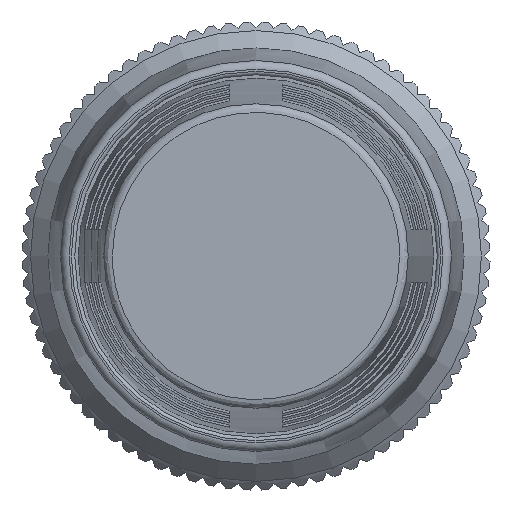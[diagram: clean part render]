
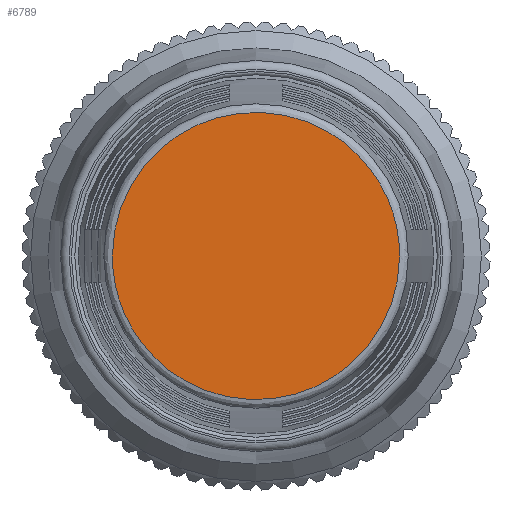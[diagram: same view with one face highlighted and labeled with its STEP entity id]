
A CAD part, front view. The second image highlights one B-rep face of the part: STEP entity #6789.
In plain terms, the highlighted planar face has unit normal (0, -1, 0).
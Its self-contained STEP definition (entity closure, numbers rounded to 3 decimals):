
#728 = CARTESIAN_POINT ( 'NONE',  ( -8.282, -27.25, 0. ) ) ;
#879 = ORIENTED_EDGE ( 'NONE', *, *, #6882, .F. ) ;
#1392 = PLANE ( 'NONE',  #4742 ) ;
#1551 = CARTESIAN_POINT ( 'NONE',  ( 8.282, -27.25, -16.563 ) ) ;
#3668 = DIRECTION ( 'NONE',  ( 1., 0., 0. ) ) ;
#3805 = FACE_OUTER_BOUND ( 'NONE', #9345, .T. ) ;
#3957 = CARTESIAN_POINT ( 'NONE',  ( -4.141, -27.25, 0. ) ) ;
#4139 = CARTESIAN_POINT ( 'NONE',  ( 8.282, -27.25, 16.563 ) ) ;
#4742 = AXIS2_PLACEMENT_3D ( 'NONE', #3957, #10599, #3668 ) ;
#4883 = CARTESIAN_POINT ( 'NONE',  ( -8.282, -27.25, 0. ) ) ;
#6574 = CARTESIAN_POINT ( 'NONE',  ( -8.282, -27.25, 16.563 ) ) ;
#6789 = ADVANCED_FACE ( 'NONE', ( #3805 ), #1392, .T. ) ;
#6882 = EDGE_CURVE ( 'NONE', #7219, #7219, #10144, .T. ) ;
#7219 = VERTEX_POINT ( 'NONE', #10246 ) ;
#9159 = CARTESIAN_POINT ( 'NONE',  ( -8.282, -27.25, -16.563 ) ) ;
#9345 = EDGE_LOOP ( 'NONE', ( #879 ) ) ;
#9876 = CARTESIAN_POINT ( 'NONE',  ( 8.282, -27.25, 0. ) ) ;
#10144 =( BOUNDED_CURVE ( )  B_SPLINE_CURVE ( 3, ( #728, #6574, #4139, #9876, #1551, #9159, #4883 ),
 .UNSPECIFIED., .T., .F. ) 
 B_SPLINE_CURVE_WITH_KNOTS ( ( 4, 3, 4 ),
 ( 0., 0.5, 1. ),
 .UNSPECIFIED. ) 
 CURVE ( )  GEOMETRIC_REPRESENTATION_ITEM ( )  RATIONAL_B_SPLINE_CURVE ( ( 1., 0.333, 0.333, 1., 0.333, 0.333, 1. ) ) 
 REPRESENTATION_ITEM ( '' )  );
#10246 = CARTESIAN_POINT ( 'NONE',  ( -8.282, -27.25, 0. ) ) ;
#10599 = DIRECTION ( 'NONE',  ( 0., -1., 0. ) ) ;
